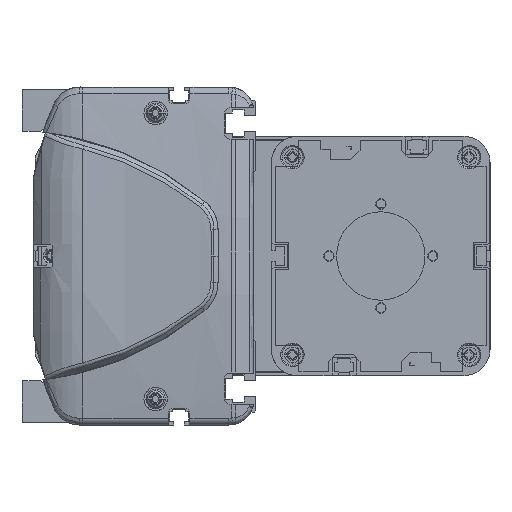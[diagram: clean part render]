
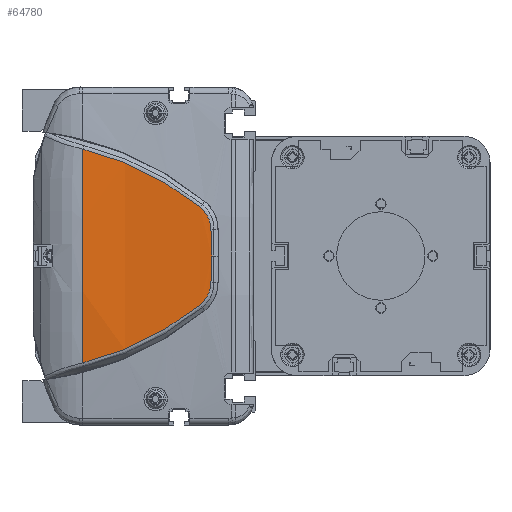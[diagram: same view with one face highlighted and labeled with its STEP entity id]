
A CAD part, left-side view. The second image highlights one B-rep face of the part: STEP entity #64780.
In plain terms, the highlighted cylindrical face has radius 500 mm (diameter 1000 mm), a partial arc.
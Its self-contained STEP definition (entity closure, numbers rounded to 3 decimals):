
#61029=CARTESIAN_POINT('',(-814.,66.962,0.));
#61030=DIRECTION('',(0.,-1.,0.));
#61031=DIRECTION('',(-0.997,0.,0.082));
#61032=AXIS2_PLACEMENT_3D('',#61029,#61030,#61031);
#61916=CARTESIAN_POINT('',(-1313.648,21.913,
-18.759));
#61917=CARTESIAN_POINT('',(-1313.449,28.504,
-24.058));
#61918=CARTESIAN_POINT('',(-1312.934,42.795,
-33.27));
#61919=CARTESIAN_POINT('',(-1312.471,58.756,
-39.127));
#61920=CARTESIAN_POINT('',(-1312.306,66.962,
-41.121));
#61922=CARTESIAN_POINT('',(-1312.306,66.962,
41.121));
#61923=CARTESIAN_POINT('',(-1312.471,58.756,
39.127));
#61924=CARTESIAN_POINT('',(-1312.934,42.795,
33.27));
#61925=CARTESIAN_POINT('',(-1313.449,28.504,
24.058));
#61926=CARTESIAN_POINT('',(-1313.648,21.913,
18.759));
#61928=CARTESIAN_POINT('',(-1313.648,21.913,
18.759));
#61929=CARTESIAN_POINT('',(-1313.686,20.635,
17.736));
#61930=CARTESIAN_POINT('',(-1313.779,18.536,
15.107));
#61931=CARTESIAN_POINT('',(-1313.863,17.752,
11.827));
#61932=CARTESIAN_POINT('',(-1313.896,17.724,
10.178));
#61934=CARTESIAN_POINT('',(-1313.896,17.724,
10.178));
#61935=CARTESIAN_POINT('',(-1313.92,17.707,
9.026));
#61936=CARTESIAN_POINT('',(-1313.959,17.667,
6.736));
#61937=CARTESIAN_POINT('',(-1313.993,17.58,
3.342));
#61938=CARTESIAN_POINT('',(-1314.,17.498,
1.109));
#61939=CARTESIAN_POINT('',(-1314.,17.449,
0.));
#61941=CARTESIAN_POINT('',(-1314.,17.449,
0.));
#61942=CARTESIAN_POINT('',(-1314.,17.498,
-1.109));
#61943=CARTESIAN_POINT('',(-1313.993,17.58,
-3.342));
#61944=CARTESIAN_POINT('',(-1313.959,17.667,
-6.735));
#61945=CARTESIAN_POINT('',(-1313.92,17.707,
-9.028));
#61946=CARTESIAN_POINT('',(-1313.896,17.724,
-10.18));
#61948=CARTESIAN_POINT('',(-1313.896,17.724,
-10.18));
#61949=CARTESIAN_POINT('',(-1313.863,17.752,
-11.828));
#61950=CARTESIAN_POINT('',(-1313.779,18.537,
-15.109));
#61951=CARTESIAN_POINT('',(-1313.686,20.635,
-17.736));
#61952=CARTESIAN_POINT('',(-1313.648,21.913,
-18.759));
#62602=VERTEX_POINT('',#61916);
#62603=VERTEX_POINT('',#61920);
#62604=CARTESIAN_POINT('',(-1312.306,66.962,
41.121));
#62605=VERTEX_POINT('',#62604);
#62606=VERTEX_POINT('',#61926);
#62607=VERTEX_POINT('',#61932);
#62608=VERTEX_POINT('',#61939);
#62609=VERTEX_POINT('',#61946);
#64761=CARTESIAN_POINT('',(-814.,8.606,0.));
#64762=DIRECTION('',(0.,1.,0.));
#64763=DIRECTION('',(1.,0.,0.));
#64764=AXIS2_PLACEMENT_3D('',#64761,#64762,#64763);
#64765=CYLINDRICAL_SURFACE('',#64764,500.);
#64767=ORIENTED_EDGE('',*,*,#64766,.T.);
#64768=ORIENTED_EDGE('',*,*,#63404,.F.);
#64770=ORIENTED_EDGE('',*,*,#64769,.T.);
#64772=ORIENTED_EDGE('',*,*,#64771,.T.);
#64774=ORIENTED_EDGE('',*,*,#64773,.T.);
#64776=ORIENTED_EDGE('',*,*,#64775,.T.);
#64777=ORIENTED_EDGE('',*,*,#64751,.T.);
#64778=EDGE_LOOP('',(#64767,#64768,#64770,#64772,#64774,#64776,#64777));
#64779=FACE_OUTER_BOUND('',#64778,.F.);
#64780=ADVANCED_FACE('',(#64779),#64765,.T.);
#61033=CIRCLE('',#61032,500.);
#61921=B_SPLINE_CURVE_WITH_KNOTS('',3,(#61916,#61917,#61918,#61919,#61920),
.UNSPECIFIED.,.F.,.F.,(4,1,4),(0.,0.5,1.),.UNSPECIFIED.);
#61927=B_SPLINE_CURVE_WITH_KNOTS('',3,(#61922,#61923,#61924,#61925,#61926),
.UNSPECIFIED.,.F.,.F.,(4,1,4),(0.,0.5,1.),.UNSPECIFIED.);
#61933=B_SPLINE_CURVE_WITH_KNOTS('',3,(#61928,#61929,#61930,#61931,#61932),
.UNSPECIFIED.,.F.,.F.,(4,1,4),(0.,0.5,1.),.UNSPECIFIED.);
#61940=B_SPLINE_CURVE_WITH_KNOTS('',3,(#61934,#61935,#61936,#61937,#61938,
#61939),.UNSPECIFIED.,.F.,.F.,(4,1,1,4),(0.,0.333,
0.667,1.),.UNSPECIFIED.);
#61947=B_SPLINE_CURVE_WITH_KNOTS('',3,(#61941,#61942,#61943,#61944,#61945,
#61946),.UNSPECIFIED.,.F.,.F.,(4,1,1,4),(0.,0.333,
0.667,1.),.UNSPECIFIED.);
#61953=B_SPLINE_CURVE_WITH_KNOTS('',3,(#61948,#61949,#61950,#61951,#61952),
.UNSPECIFIED.,.F.,.F.,(4,1,4),(0.,0.5,1.),.UNSPECIFIED.);
#63404=EDGE_CURVE('',#62605,#62603,#61033,.T.);
#64751=EDGE_CURVE('',#62609,#62602,#61953,.T.);
#64766=EDGE_CURVE('',#62602,#62603,#61921,.T.);
#64769=EDGE_CURVE('',#62605,#62606,#61927,.T.);
#64771=EDGE_CURVE('',#62606,#62607,#61933,.T.);
#64773=EDGE_CURVE('',#62607,#62608,#61940,.T.);
#64775=EDGE_CURVE('',#62608,#62609,#61947,.T.);
